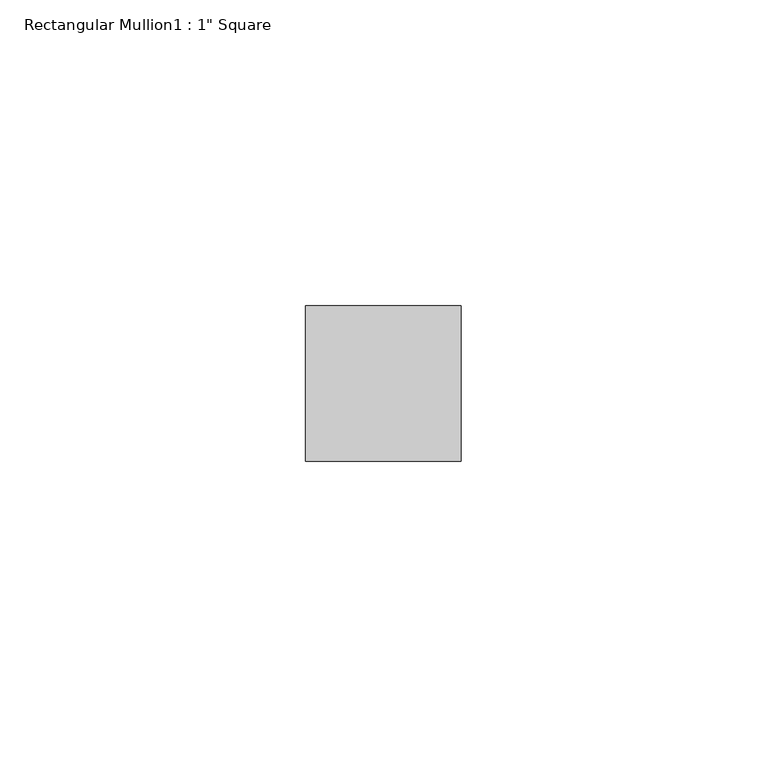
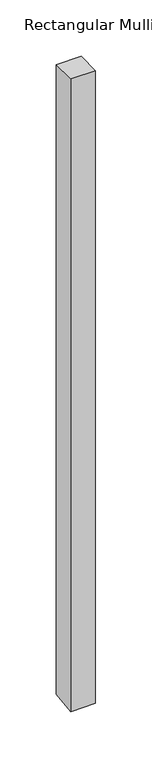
"""IFC4 building model written with IfcOpenShell, lengths in millimetres: member geometry."""

from ifc_helpers import new_model, si_unit, frame, origin, place, context, project, spatial, polyline, outline, extrude, source, transform, mapped, element, save


def member_20637585(model_context):
    return source(origin(), model_context, "Body", "SweptSolid", [
        extrude(outline(polyline([(-44.45, 0.0), (-19.05, 0.0), (-19.05, -682.4654859), (-44.45, -685.699113), (-44.45, 0.0)])), frame((-25.4, 0.0, 0.0), z_axis=(1.0, 0.0, 0.0), x_axis=(0.0, 1.0, 0.0)), (0.0, 0.0, 1.0), 25.4),
    ])


if __name__ == "__main__":
    model = new_model("IFC4")
    model_context = context("Model", 3, world=origin())
    ifc_project = project(units=[si_unit("LENGTHUNIT", "METRE", prefix="MILLI")], contexts=[model_context])
    site = spatial("IfcSite", under=ifc_project)
    building = spatial("IfcBuilding", under=site)
    placement = place(None, origin())
    member_shape = member_20637585(model_context)
    element("IfcMember", 1, ObjectType="Rectangular Mullion1 : 1\" Square", at=placement, inside=building, context=model_context, shape_type="MappedRepresentation", body=[
        mapped(member_shape, transform((0.0, 0.0, 0.0), x_axis=(1.0, 0.0, 0.0), y_axis=(0.0, 1.0, 0.0), z_axis=(0.0, 0.0, 1.0))),
    ])
    save(model, "model.ifc")
